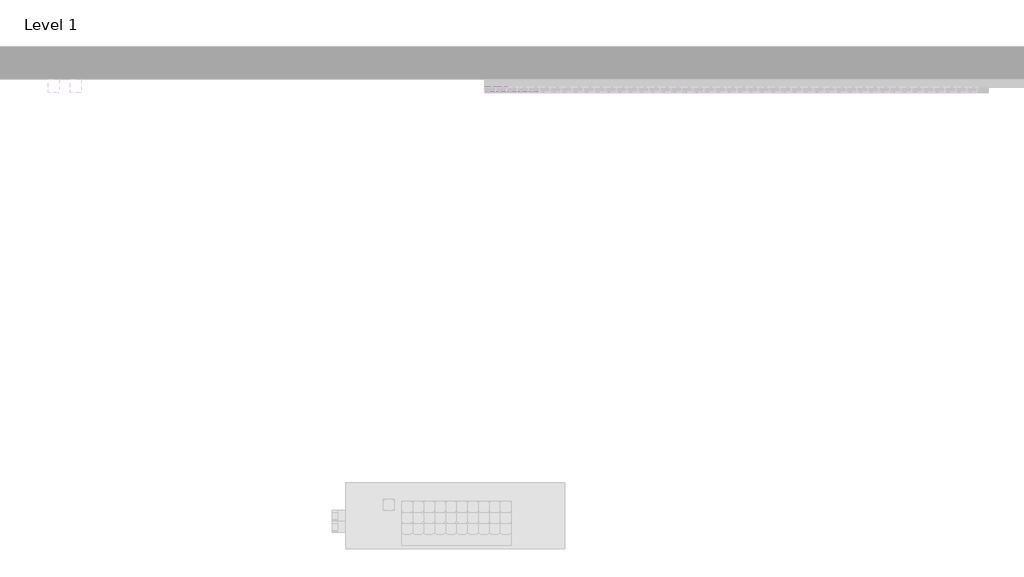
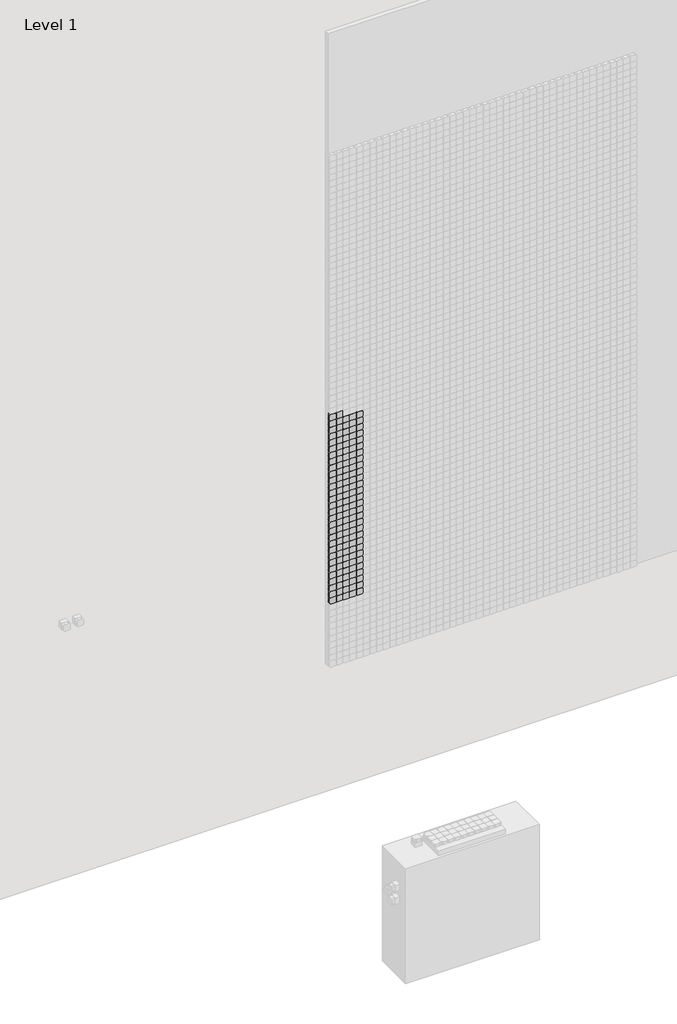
# One storey, part 6 of 71: 147 proxies.
"""IFC4 building model written with IfcOpenShell, lengths in millimetres."""

from ifc_helpers import new_model, si_unit, origin, place, context, project, spatial, transform, mapped, element, save
from components import generic_models_afde289c

model = new_model("IFC4")

# Units and contexts
model_context = context("Model", 3, world=origin())
ifc_project = project(units=[si_unit("LENGTHUNIT", "METRE", prefix="MILLI")], contexts=[model_context])

# Site, building, storey
site = spatial("IfcSite", under=ifc_project)
building = spatial("IfcBuilding", under=site)
storey = spatial("IfcBuildingStorey", under=building, Name="Level 1", Elevation=0.0)

# Proxies
placement = place(None, origin())
generic_models_shape = generic_models_afde289c(model_context)
element("IfcBuildingElementProxy", 1, Name="Pixel_M : Pixel_M", ObjectType="Pixel_M : Pixel_M", at=placement, inside=storey, context=model_context, shape_type="MappedRepresentation", body=[
    mapped(generic_models_shape, transform((4812.4280941, -75.0, 2966.3566215), x_axis=(1.0, 0.0, 0.0), y_axis=(0.0, 0.0, 1.0), z_axis=(0.0, -1.0, 0.0))),
])
element("IfcBuildingElementProxy", 2, Name="Pixel_M : Pixel_M", ObjectType="Pixel_M : Pixel_M", at=placement, inside=storey, context=model_context, shape_type="MappedRepresentation", body=[
    mapped(generic_models_shape, transform((4762.4280941, -75.0, 2966.3566215), x_axis=(1.0, 0.0, 0.0), y_axis=(0.0, 0.0, 1.0), z_axis=(0.0, -1.0, 0.0))),
])
element("IfcBuildingElementProxy", 3, Name="Pixel_M : Pixel_M", ObjectType="Pixel_M : Pixel_M", at=placement, inside=storey, context=model_context, shape_type="MappedRepresentation", body=[
    mapped(generic_models_shape, transform((4962.4280941, -75.0, 2916.3566215), x_axis=(1.0, 0.0, 0.0), y_axis=(0.0, 0.0, 1.0), z_axis=(0.0, -1.0, 0.0))),
])
element("IfcBuildingElementProxy", 4, Name="Pixel_M : Pixel_M", ObjectType="Pixel_M : Pixel_M", at=placement, inside=storey, context=model_context, shape_type="MappedRepresentation", body=[
    mapped(generic_models_shape, transform((4912.4280941, -75.0, 2916.3566215), x_axis=(1.0, 0.0, 0.0), y_axis=(0.0, 0.0, 1.0), z_axis=(0.0, -1.0, 0.0))),
])
element("IfcBuildingElementProxy", 5, Name="Pixel_M : Pixel_M", ObjectType="Pixel_M : Pixel_M", at=placement, inside=storey, context=model_context, shape_type="MappedRepresentation", body=[
    mapped(generic_models_shape, transform((4862.4280941, -75.0, 2916.3566215), x_axis=(1.0, 0.0, 0.0), y_axis=(0.0, 0.0, 1.0), z_axis=(0.0, -1.0, 0.0))),
])
element("IfcBuildingElementProxy", 6, Name="Pixel_M : Pixel_M", ObjectType="Pixel_M : Pixel_M", at=placement, inside=storey, context=model_context, shape_type="MappedRepresentation", body=[
    mapped(generic_models_shape, transform((4812.4280941, -75.0, 2916.3566215), x_axis=(1.0, 0.0, 0.0), y_axis=(0.0, 0.0, 1.0), z_axis=(0.0, -1.0, 0.0))),
])
element("IfcBuildingElementProxy", 7, Name="Pixel_M : Pixel_M", ObjectType="Pixel_M : Pixel_M", at=placement, inside=storey, context=model_context, shape_type="MappedRepresentation", body=[
    mapped(generic_models_shape, transform((4762.4280941, -75.0, 2916.3566215), x_axis=(1.0, 0.0, 0.0), y_axis=(0.0, 0.0, 1.0), z_axis=(0.0, -1.0, 0.0))),
])
element("IfcBuildingElementProxy", 8, Name="Pixel_M : Pixel_M", ObjectType="Pixel_M : Pixel_M", at=placement, inside=storey, context=model_context, shape_type="MappedRepresentation", body=[
    mapped(generic_models_shape, transform((4962.4280941, -75.0, 2866.3566215), x_axis=(1.0, 0.0, 0.0), y_axis=(0.0, 0.0, 1.0), z_axis=(0.0, -1.0, 0.0))),
])
element("IfcBuildingElementProxy", 9, Name="Pixel_M : Pixel_M", ObjectType="Pixel_M : Pixel_M", at=placement, inside=storey, context=model_context, shape_type="MappedRepresentation", body=[
    mapped(generic_models_shape, transform((4912.4280941, -75.0, 2866.3566215), x_axis=(1.0, 0.0, 0.0), y_axis=(0.0, 0.0, 1.0), z_axis=(0.0, -1.0, 0.0))),
])
element("IfcBuildingElementProxy", 10, Name="Pixel_M : Pixel_M", ObjectType="Pixel_M : Pixel_M", at=placement, inside=storey, context=model_context, shape_type="MappedRepresentation", body=[
    mapped(generic_models_shape, transform((4862.4280941, -75.0, 2866.3566215), x_axis=(1.0, 0.0, 0.0), y_axis=(0.0, 0.0, 1.0), z_axis=(0.0, -1.0, 0.0))),
])
element("IfcBuildingElementProxy", 11, Name="Pixel_M : Pixel_M", ObjectType="Pixel_M : Pixel_M", at=placement, inside=storey, context=model_context, shape_type="MappedRepresentation", body=[
    mapped(generic_models_shape, transform((4812.4280941, -75.0, 2866.3566215), x_axis=(1.0, 0.0, 0.0), y_axis=(0.0, 0.0, 1.0), z_axis=(0.0, -1.0, 0.0))),
])
element("IfcBuildingElementProxy", 12, Name="Pixel_M : Pixel_M", ObjectType="Pixel_M : Pixel_M", at=placement, inside=storey, context=model_context, shape_type="MappedRepresentation", body=[
    mapped(generic_models_shape, transform((4762.4280941, -75.0, 2866.3566215), x_axis=(1.0, 0.0, 0.0), y_axis=(0.0, 0.0, 1.0), z_axis=(0.0, -1.0, 0.0))),
])
element("IfcBuildingElementProxy", 13, Name="Pixel_M : Pixel_M", ObjectType="Pixel_M : Pixel_M", at=placement, inside=storey, context=model_context, shape_type="MappedRepresentation", body=[
    mapped(generic_models_shape, transform((4962.4280941, -75.0, 2816.3566215), x_axis=(1.0, 0.0, 0.0), y_axis=(0.0, 0.0, 1.0), z_axis=(0.0, -1.0, 0.0))),
])
element("IfcBuildingElementProxy", 14, Name="Pixel_M : Pixel_M", ObjectType="Pixel_M : Pixel_M", at=placement, inside=storey, context=model_context, shape_type="MappedRepresentation", body=[
    mapped(generic_models_shape, transform((4912.4280941, -75.0, 2816.3566215), x_axis=(1.0, 0.0, 0.0), y_axis=(0.0, 0.0, 1.0), z_axis=(0.0, -1.0, 0.0))),
])
element("IfcBuildingElementProxy", 15, Name="Pixel_M : Pixel_M", ObjectType="Pixel_M : Pixel_M", at=placement, inside=storey, context=model_context, shape_type="MappedRepresentation", body=[
    mapped(generic_models_shape, transform((4862.4280941, -75.0, 2816.3566215), x_axis=(1.0, 0.0, 0.0), y_axis=(0.0, 0.0, 1.0), z_axis=(0.0, -1.0, 0.0))),
])
element("IfcBuildingElementProxy", 16, Name="Pixel_M : Pixel_M", ObjectType="Pixel_M : Pixel_M", at=placement, inside=storey, context=model_context, shape_type="MappedRepresentation", body=[
    mapped(generic_models_shape, transform((4812.4280941, -75.0, 2816.3566215), x_axis=(1.0, 0.0, 0.0), y_axis=(0.0, 0.0, 1.0), z_axis=(0.0, -1.0, 0.0))),
])
element("IfcBuildingElementProxy", 17, Name="Pixel_M : Pixel_M", ObjectType="Pixel_M : Pixel_M", at=placement, inside=storey, context=model_context, shape_type="MappedRepresentation", body=[
    mapped(generic_models_shape, transform((4762.4280941, -75.0, 2816.3566215), x_axis=(1.0, 0.0, 0.0), y_axis=(0.0, 0.0, 1.0), z_axis=(0.0, -1.0, 0.0))),
])
element("IfcBuildingElementProxy", 18, Name="Pixel_M : Pixel_M", ObjectType="Pixel_M : Pixel_M", at=placement, inside=storey, context=model_context, shape_type="MappedRepresentation", body=[
    mapped(generic_models_shape, transform((4962.4280941, -75.0, 2766.3566215), x_axis=(1.0, 0.0, 0.0), y_axis=(0.0, 0.0, 1.0), z_axis=(0.0, -1.0, 0.0))),
])
element("IfcBuildingElementProxy", 19, Name="Pixel_M : Pixel_M", ObjectType="Pixel_M : Pixel_M", at=placement, inside=storey, context=model_context, shape_type="MappedRepresentation", body=[
    mapped(generic_models_shape, transform((4912.4280941, -75.0, 2766.3566215), x_axis=(1.0, 0.0, 0.0), y_axis=(0.0, 0.0, 1.0), z_axis=(0.0, -1.0, 0.0))),
])
element("IfcBuildingElementProxy", 20, Name="Pixel_M : Pixel_M", ObjectType="Pixel_M : Pixel_M", at=placement, inside=storey, context=model_context, shape_type="MappedRepresentation", body=[
    mapped(generic_models_shape, transform((4862.4280941, -75.0, 2766.3566215), x_axis=(1.0, 0.0, 0.0), y_axis=(0.0, 0.0, 1.0), z_axis=(0.0, -1.0, 0.0))),
])
element("IfcBuildingElementProxy", 21, Name="Pixel_M : Pixel_M", ObjectType="Pixel_M : Pixel_M", at=placement, inside=storey, context=model_context, shape_type="MappedRepresentation", body=[
    mapped(generic_models_shape, transform((4812.4280941, -75.0, 2766.3566215), x_axis=(1.0, 0.0, 0.0), y_axis=(0.0, 0.0, 1.0), z_axis=(0.0, -1.0, 0.0))),
])
element("IfcBuildingElementProxy", 22, Name="Pixel_M : Pixel_M", ObjectType="Pixel_M : Pixel_M", at=placement, inside=storey, context=model_context, shape_type="MappedRepresentation", body=[
    mapped(generic_models_shape, transform((4762.4280941, -75.0, 2766.3566215), x_axis=(1.0, 0.0, 0.0), y_axis=(0.0, 0.0, 1.0), z_axis=(0.0, -1.0, 0.0))),
])
element("IfcBuildingElementProxy", 23, Name="Pixel_M : Pixel_M", ObjectType="Pixel_M : Pixel_M", at=placement, inside=storey, context=model_context, shape_type="MappedRepresentation", body=[
    mapped(generic_models_shape, transform((4962.4280941, -75.0, 2716.3566215), x_axis=(1.0, 0.0, 0.0), y_axis=(0.0, 0.0, 1.0), z_axis=(0.0, -1.0, 0.0))),
])
element("IfcBuildingElementProxy", 24, Name="Pixel_M : Pixel_M", ObjectType="Pixel_M : Pixel_M", at=placement, inside=storey, context=model_context, shape_type="MappedRepresentation", body=[
    mapped(generic_models_shape, transform((4912.4280941, -75.0, 2716.3566215), x_axis=(1.0, 0.0, 0.0), y_axis=(0.0, 0.0, 1.0), z_axis=(0.0, -1.0, 0.0))),
])
element("IfcBuildingElementProxy", 25, Name="Pixel_M : Pixel_M", ObjectType="Pixel_M : Pixel_M", at=placement, inside=storey, context=model_context, shape_type="MappedRepresentation", body=[
    mapped(generic_models_shape, transform((4862.4280941, -75.0, 2716.3566215), x_axis=(1.0, 0.0, 0.0), y_axis=(0.0, 0.0, 1.0), z_axis=(0.0, -1.0, 0.0))),
])
element("IfcBuildingElementProxy", 26, Name="Pixel_M : Pixel_M", ObjectType="Pixel_M : Pixel_M", at=placement, inside=storey, context=model_context, shape_type="MappedRepresentation", body=[
    mapped(generic_models_shape, transform((4812.4280941, -75.0, 2716.3566215), x_axis=(1.0, 0.0, 0.0), y_axis=(0.0, 0.0, 1.0), z_axis=(0.0, -1.0, 0.0))),
])
element("IfcBuildingElementProxy", 27, Name="Pixel_M : Pixel_M", ObjectType="Pixel_M : Pixel_M", at=placement, inside=storey, context=model_context, shape_type="MappedRepresentation", body=[
    mapped(generic_models_shape, transform((4762.4280941, -75.0, 2716.3566215), x_axis=(1.0, 0.0, 0.0), y_axis=(0.0, 0.0, 1.0), z_axis=(0.0, -1.0, 0.0))),
])
element("IfcBuildingElementProxy", 28, Name="Pixel_M : Pixel_M", ObjectType="Pixel_M : Pixel_M", at=placement, inside=storey, context=model_context, shape_type="MappedRepresentation", body=[
    mapped(generic_models_shape, transform((4962.4280941, -75.0, 2666.3566215), x_axis=(1.0, 0.0, 0.0), y_axis=(0.0, 0.0, 1.0), z_axis=(0.0, -1.0, 0.0))),
])
element("IfcBuildingElementProxy", 29, Name="Pixel_M : Pixel_M", ObjectType="Pixel_M : Pixel_M", at=placement, inside=storey, context=model_context, shape_type="MappedRepresentation", body=[
    mapped(generic_models_shape, transform((4912.4280941, -75.0, 2666.3566215), x_axis=(1.0, 0.0, 0.0), y_axis=(0.0, 0.0, 1.0), z_axis=(0.0, -1.0, 0.0))),
])
element("IfcBuildingElementProxy", 30, Name="Pixel_M : Pixel_M", ObjectType="Pixel_M : Pixel_M", at=placement, inside=storey, context=model_context, shape_type="MappedRepresentation", body=[
    mapped(generic_models_shape, transform((4862.4280941, -75.0, 2666.3566215), x_axis=(1.0, 0.0, 0.0), y_axis=(0.0, 0.0, 1.0), z_axis=(0.0, -1.0, 0.0))),
])
element("IfcBuildingElementProxy", 31, Name="Pixel_M : Pixel_M", ObjectType="Pixel_M : Pixel_M", at=placement, inside=storey, context=model_context, shape_type="MappedRepresentation", body=[
    mapped(generic_models_shape, transform((4812.4280941, -75.0, 2666.3566215), x_axis=(1.0, 0.0, 0.0), y_axis=(0.0, 0.0, 1.0), z_axis=(0.0, -1.0, 0.0))),
])
element("IfcBuildingElementProxy", 32, Name="Pixel_M : Pixel_M", ObjectType="Pixel_M : Pixel_M", at=placement, inside=storey, context=model_context, shape_type="MappedRepresentation", body=[
    mapped(generic_models_shape, transform((4762.4280941, -75.0, 2666.3566215), x_axis=(1.0, 0.0, 0.0), y_axis=(0.0, 0.0, 1.0), z_axis=(0.0, -1.0, 0.0))),
])
element("IfcBuildingElementProxy", 33, Name="Pixel_M : Pixel_M", ObjectType="Pixel_M : Pixel_M", at=placement, inside=storey, context=model_context, shape_type="MappedRepresentation", body=[
    mapped(generic_models_shape, transform((4962.4280941, -75.0, 2616.3566215), x_axis=(1.0, 0.0, 0.0), y_axis=(0.0, 0.0, 1.0), z_axis=(0.0, -1.0, 0.0))),
])
element("IfcBuildingElementProxy", 34, Name="Pixel_M : Pixel_M", ObjectType="Pixel_M : Pixel_M", at=placement, inside=storey, context=model_context, shape_type="MappedRepresentation", body=[
    mapped(generic_models_shape, transform((4912.4280941, -75.0, 2616.3566215), x_axis=(1.0, 0.0, 0.0), y_axis=(0.0, 0.0, 1.0), z_axis=(0.0, -1.0, 0.0))),
])
element("IfcBuildingElementProxy", 35, Name="Pixel_M : Pixel_M", ObjectType="Pixel_M : Pixel_M", at=placement, inside=storey, context=model_context, shape_type="MappedRepresentation", body=[
    mapped(generic_models_shape, transform((4862.4280941, -75.0, 2616.3566215), x_axis=(1.0, 0.0, 0.0), y_axis=(0.0, 0.0, 1.0), z_axis=(0.0, -1.0, 0.0))),
])
element("IfcBuildingElementProxy", 36, Name="Pixel_M : Pixel_M", ObjectType="Pixel_M : Pixel_M", at=placement, inside=storey, context=model_context, shape_type="MappedRepresentation", body=[
    mapped(generic_models_shape, transform((4812.4280941, -75.0, 2616.3566215), x_axis=(1.0, 0.0, 0.0), y_axis=(0.0, 0.0, 1.0), z_axis=(0.0, -1.0, 0.0))),
])
element("IfcBuildingElementProxy", 37, Name="Pixel_M : Pixel_M", ObjectType="Pixel_M : Pixel_M", at=placement, inside=storey, context=model_context, shape_type="MappedRepresentation", body=[
    mapped(generic_models_shape, transform((4762.4280941, -75.0, 2616.3566215), x_axis=(1.0, 0.0, 0.0), y_axis=(0.0, 0.0, 1.0), z_axis=(0.0, -1.0, 0.0))),
])
element("IfcBuildingElementProxy", 38, Name="Pixel_M : Pixel_M", ObjectType="Pixel_M : Pixel_M", at=placement, inside=storey, context=model_context, shape_type="MappedRepresentation", body=[
    mapped(generic_models_shape, transform((4962.4280941, -75.0, 2566.3566215), x_axis=(1.0, 0.0, 0.0), y_axis=(0.0, 0.0, 1.0), z_axis=(0.0, -1.0, 0.0))),
])
element("IfcBuildingElementProxy", 39, Name="Pixel_M : Pixel_M", ObjectType="Pixel_M : Pixel_M", at=placement, inside=storey, context=model_context, shape_type="MappedRepresentation", body=[
    mapped(generic_models_shape, transform((4912.4280941, -75.0, 2566.3566215), x_axis=(1.0, 0.0, 0.0), y_axis=(0.0, 0.0, 1.0), z_axis=(0.0, -1.0, 0.0))),
])
element("IfcBuildingElementProxy", 40, Name="Pixel_M : Pixel_M", ObjectType="Pixel_M : Pixel_M", at=placement, inside=storey, context=model_context, shape_type="MappedRepresentation", body=[
    mapped(generic_models_shape, transform((4862.4280941, -75.0, 2566.3566215), x_axis=(1.0, 0.0, 0.0), y_axis=(0.0, 0.0, 1.0), z_axis=(0.0, -1.0, 0.0))),
])
element("IfcBuildingElementProxy", 41, Name="Pixel_M : Pixel_M", ObjectType="Pixel_M : Pixel_M", at=placement, inside=storey, context=model_context, shape_type="MappedRepresentation", body=[
    mapped(generic_models_shape, transform((4812.4280941, -75.0, 2566.3566215), x_axis=(1.0, 0.0, 0.0), y_axis=(0.0, 0.0, 1.0), z_axis=(0.0, -1.0, 0.0))),
])
element("IfcBuildingElementProxy", 42, Name="Pixel_M : Pixel_M", ObjectType="Pixel_M : Pixel_M", at=placement, inside=storey, context=model_context, shape_type="MappedRepresentation", body=[
    mapped(generic_models_shape, transform((4762.4280941, -75.0, 2566.3566215), x_axis=(1.0, 0.0, 0.0), y_axis=(0.0, 0.0, 1.0), z_axis=(0.0, -1.0, 0.0))),
])
element("IfcBuildingElementProxy", 43, Name="Pixel_M : Pixel_M", ObjectType="Pixel_M : Pixel_M", at=placement, inside=storey, context=model_context, shape_type="MappedRepresentation", body=[
    mapped(generic_models_shape, transform((4962.4280941, -75.0, 2516.3566215), x_axis=(1.0, 0.0, 0.0), y_axis=(0.0, 0.0, 1.0), z_axis=(0.0, -1.0, 0.0))),
])
element("IfcBuildingElementProxy", 44, Name="Pixel_M : Pixel_M", ObjectType="Pixel_M : Pixel_M", at=placement, inside=storey, context=model_context, shape_type="MappedRepresentation", body=[
    mapped(generic_models_shape, transform((4912.4280941, -75.0, 2516.3566215), x_axis=(1.0, 0.0, 0.0), y_axis=(0.0, 0.0, 1.0), z_axis=(0.0, -1.0, 0.0))),
])
element("IfcBuildingElementProxy", 45, Name="Pixel_M : Pixel_M", ObjectType="Pixel_M : Pixel_M", at=placement, inside=storey, context=model_context, shape_type="MappedRepresentation", body=[
    mapped(generic_models_shape, transform((4862.4280941, -75.0, 2516.3566215), x_axis=(1.0, 0.0, 0.0), y_axis=(0.0, 0.0, 1.0), z_axis=(0.0, -1.0, 0.0))),
])
element("IfcBuildingElementProxy", 46, Name="Pixel_M : Pixel_M", ObjectType="Pixel_M : Pixel_M", at=placement, inside=storey, context=model_context, shape_type="MappedRepresentation", body=[
    mapped(generic_models_shape, transform((4812.4280941, -75.0, 2516.3566215), x_axis=(1.0, 0.0, 0.0), y_axis=(0.0, 0.0, 1.0), z_axis=(0.0, -1.0, 0.0))),
])
element("IfcBuildingElementProxy", 47, Name="Pixel_M : Pixel_M", ObjectType="Pixel_M : Pixel_M", at=placement, inside=storey, context=model_context, shape_type="MappedRepresentation", body=[
    mapped(generic_models_shape, transform((4762.4280941, -75.0, 2516.3566215), x_axis=(1.0, 0.0, 0.0), y_axis=(0.0, 0.0, 1.0), z_axis=(0.0, -1.0, 0.0))),
])
element("IfcBuildingElementProxy", 48, Name="Pixel_M : Pixel_M", ObjectType="Pixel_M : Pixel_M", at=placement, inside=storey, context=model_context, shape_type="MappedRepresentation", body=[
    mapped(generic_models_shape, transform((4962.4280941, -75.0, 2466.3566215), x_axis=(1.0, 0.0, 0.0), y_axis=(0.0, 0.0, 1.0), z_axis=(0.0, -1.0, 0.0))),
])
element("IfcBuildingElementProxy", 49, Name="Pixel_M : Pixel_M", ObjectType="Pixel_M : Pixel_M", at=placement, inside=storey, context=model_context, shape_type="MappedRepresentation", body=[
    mapped(generic_models_shape, transform((4912.4280941, -75.0, 2466.3566215), x_axis=(1.0, 0.0, 0.0), y_axis=(0.0, 0.0, 1.0), z_axis=(0.0, -1.0, 0.0))),
])
element("IfcBuildingElementProxy", 50, Name="Pixel_M : Pixel_M", ObjectType="Pixel_M : Pixel_M", at=placement, inside=storey, context=model_context, shape_type="MappedRepresentation", body=[
    mapped(generic_models_shape, transform((4862.4280941, -75.0, 2466.3566215), x_axis=(1.0, 0.0, 0.0), y_axis=(0.0, 0.0, 1.0), z_axis=(0.0, -1.0, 0.0))),
])
element("IfcBuildingElementProxy", 51, Name="Pixel_M : Pixel_M", ObjectType="Pixel_M : Pixel_M", at=placement, inside=storey, context=model_context, shape_type="MappedRepresentation", body=[
    mapped(generic_models_shape, transform((4812.4280941, -75.0, 2466.3566215), x_axis=(1.0, 0.0, 0.0), y_axis=(0.0, 0.0, 1.0), z_axis=(0.0, -1.0, 0.0))),
])
element("IfcBuildingElementProxy", 52, Name="Pixel_M : Pixel_M", ObjectType="Pixel_M : Pixel_M", at=placement, inside=storey, context=model_context, shape_type="MappedRepresentation", body=[
    mapped(generic_models_shape, transform((4762.4280941, -75.0, 2466.3566215), x_axis=(1.0, 0.0, 0.0), y_axis=(0.0, 0.0, 1.0), z_axis=(0.0, -1.0, 0.0))),
])
element("IfcBuildingElementProxy", 53, Name="Pixel_M : Pixel_M", ObjectType="Pixel_M : Pixel_M", at=placement, inside=storey, context=model_context, shape_type="MappedRepresentation", body=[
    mapped(generic_models_shape, transform((4962.4280941, -75.0, 2416.3566215), x_axis=(1.0, 0.0, 0.0), y_axis=(0.0, 0.0, 1.0), z_axis=(0.0, -1.0, 0.0))),
])
element("IfcBuildingElementProxy", 54, Name="Pixel_M : Pixel_M", ObjectType="Pixel_M : Pixel_M", at=placement, inside=storey, context=model_context, shape_type="MappedRepresentation", body=[
    mapped(generic_models_shape, transform((4912.4280941, -75.0, 2416.3566215), x_axis=(1.0, 0.0, 0.0), y_axis=(0.0, 0.0, 1.0), z_axis=(0.0, -1.0, 0.0))),
])
element("IfcBuildingElementProxy", 55, Name="Pixel_M : Pixel_M", ObjectType="Pixel_M : Pixel_M", at=placement, inside=storey, context=model_context, shape_type="MappedRepresentation", body=[
    mapped(generic_models_shape, transform((4862.4280941, -75.0, 2416.3566215), x_axis=(1.0, 0.0, 0.0), y_axis=(0.0, 0.0, 1.0), z_axis=(0.0, -1.0, 0.0))),
])
element("IfcBuildingElementProxy", 56, Name="Pixel_M : Pixel_M", ObjectType="Pixel_M : Pixel_M", at=placement, inside=storey, context=model_context, shape_type="MappedRepresentation", body=[
    mapped(generic_models_shape, transform((4812.4280941, -75.0, 2416.3566215), x_axis=(1.0, 0.0, 0.0), y_axis=(0.0, 0.0, 1.0), z_axis=(0.0, -1.0, 0.0))),
])
element("IfcBuildingElementProxy", 57, Name="Pixel_M : Pixel_M", ObjectType="Pixel_M : Pixel_M", at=placement, inside=storey, context=model_context, shape_type="MappedRepresentation", body=[
    mapped(generic_models_shape, transform((4762.4280941, -75.0, 2416.3566215), x_axis=(1.0, 0.0, 0.0), y_axis=(0.0, 0.0, 1.0), z_axis=(0.0, -1.0, 0.0))),
])
element("IfcBuildingElementProxy", 58, Name="Pixel_M : Pixel_M", ObjectType="Pixel_M : Pixel_M", at=placement, inside=storey, context=model_context, shape_type="MappedRepresentation", body=[
    mapped(generic_models_shape, transform((4962.4280941, -75.0, 2366.3566215), x_axis=(1.0, 0.0, 0.0), y_axis=(0.0, 0.0, 1.0), z_axis=(0.0, -1.0, 0.0))),
])
element("IfcBuildingElementProxy", 59, Name="Pixel_M : Pixel_M", ObjectType="Pixel_M : Pixel_M", at=placement, inside=storey, context=model_context, shape_type="MappedRepresentation", body=[
    mapped(generic_models_shape, transform((4912.4280941, -75.0, 2366.3566215), x_axis=(1.0, 0.0, 0.0), y_axis=(0.0, 0.0, 1.0), z_axis=(0.0, -1.0, 0.0))),
])
element("IfcBuildingElementProxy", 60, Name="Pixel_M : Pixel_M", ObjectType="Pixel_M : Pixel_M", at=placement, inside=storey, context=model_context, shape_type="MappedRepresentation", body=[
    mapped(generic_models_shape, transform((4862.4280941, -75.0, 2366.3566215), x_axis=(1.0, 0.0, 0.0), y_axis=(0.0, 0.0, 1.0), z_axis=(0.0, -1.0, 0.0))),
])
element("IfcBuildingElementProxy", 61, Name="Pixel_M : Pixel_M", ObjectType="Pixel_M : Pixel_M", at=placement, inside=storey, context=model_context, shape_type="MappedRepresentation", body=[
    mapped(generic_models_shape, transform((4812.4280941, -75.0, 2366.3566215), x_axis=(1.0, 0.0, 0.0), y_axis=(0.0, 0.0, 1.0), z_axis=(0.0, -1.0, 0.0))),
])
element("IfcBuildingElementProxy", 62, Name="Pixel_M : Pixel_M", ObjectType="Pixel_M : Pixel_M", at=placement, inside=storey, context=model_context, shape_type="MappedRepresentation", body=[
    mapped(generic_models_shape, transform((4762.4280941, -75.0, 2366.3566215), x_axis=(1.0, 0.0, 0.0), y_axis=(0.0, 0.0, 1.0), z_axis=(0.0, -1.0, 0.0))),
])
element("IfcBuildingElementProxy", 63, Name="Pixel_M : Pixel_M", ObjectType="Pixel_M : Pixel_M", at=placement, inside=storey, context=model_context, shape_type="MappedRepresentation", body=[
    mapped(generic_models_shape, transform((4962.4280941, -75.0, 2316.3566215), x_axis=(1.0, 0.0, 0.0), y_axis=(0.0, 0.0, 1.0), z_axis=(0.0, -1.0, 0.0))),
])
element("IfcBuildingElementProxy", 64, Name="Pixel_M : Pixel_M", ObjectType="Pixel_M : Pixel_M", at=placement, inside=storey, context=model_context, shape_type="MappedRepresentation", body=[
    mapped(generic_models_shape, transform((4912.4280941, -75.0, 2316.3566215), x_axis=(1.0, 0.0, 0.0), y_axis=(0.0, 0.0, 1.0), z_axis=(0.0, -1.0, 0.0))),
])
element("IfcBuildingElementProxy", 65, Name="Pixel_M : Pixel_M", ObjectType="Pixel_M : Pixel_M", at=placement, inside=storey, context=model_context, shape_type="MappedRepresentation", body=[
    mapped(generic_models_shape, transform((4862.4280941, -75.0, 2316.3566215), x_axis=(1.0, 0.0, 0.0), y_axis=(0.0, 0.0, 1.0), z_axis=(0.0, -1.0, 0.0))),
])
element("IfcBuildingElementProxy", 66, Name="Pixel_M : Pixel_M", ObjectType="Pixel_M : Pixel_M", at=placement, inside=storey, context=model_context, shape_type="MappedRepresentation", body=[
    mapped(generic_models_shape, transform((4812.4280941, -75.0, 2316.3566215), x_axis=(1.0, 0.0, 0.0), y_axis=(0.0, 0.0, 1.0), z_axis=(0.0, -1.0, 0.0))),
])
element("IfcBuildingElementProxy", 67, Name="Pixel_M : Pixel_M", ObjectType="Pixel_M : Pixel_M", at=placement, inside=storey, context=model_context, shape_type="MappedRepresentation", body=[
    mapped(generic_models_shape, transform((4762.4280941, -75.0, 2316.3566215), x_axis=(1.0, 0.0, 0.0), y_axis=(0.0, 0.0, 1.0), z_axis=(0.0, -1.0, 0.0))),
])
element("IfcBuildingElementProxy", 68, Name="Pixel_M : Pixel_M", ObjectType="Pixel_M : Pixel_M", at=placement, inside=storey, context=model_context, shape_type="MappedRepresentation", body=[
    mapped(generic_models_shape, transform((4962.4280941, -75.0, 2266.3566215), x_axis=(1.0, 0.0, 0.0), y_axis=(0.0, 0.0, 1.0), z_axis=(0.0, -1.0, 0.0))),
])
element("IfcBuildingElementProxy", 69, Name="Pixel_M : Pixel_M", ObjectType="Pixel_M : Pixel_M", at=placement, inside=storey, context=model_context, shape_type="MappedRepresentation", body=[
    mapped(generic_models_shape, transform((4912.4280941, -75.0, 2266.3566215), x_axis=(1.0, 0.0, 0.0), y_axis=(0.0, 0.0, 1.0), z_axis=(0.0, -1.0, 0.0))),
])
element("IfcBuildingElementProxy", 70, Name="Pixel_M : Pixel_M", ObjectType="Pixel_M : Pixel_M", at=placement, inside=storey, context=model_context, shape_type="MappedRepresentation", body=[
    mapped(generic_models_shape, transform((4862.4280941, -75.0, 2266.3566215), x_axis=(1.0, 0.0, 0.0), y_axis=(0.0, 0.0, 1.0), z_axis=(0.0, -1.0, 0.0))),
])
element("IfcBuildingElementProxy", 71, Name="Pixel_M : Pixel_M", ObjectType="Pixel_M : Pixel_M", at=placement, inside=storey, context=model_context, shape_type="MappedRepresentation", body=[
    mapped(generic_models_shape, transform((4812.4280941, -75.0, 2266.3566215), x_axis=(1.0, 0.0, 0.0), y_axis=(0.0, 0.0, 1.0), z_axis=(0.0, -1.0, 0.0))),
])
element("IfcBuildingElementProxy", 72, Name="Pixel_M : Pixel_M", ObjectType="Pixel_M : Pixel_M", at=placement, inside=storey, context=model_context, shape_type="MappedRepresentation", body=[
    mapped(generic_models_shape, transform((4762.4280941, -75.0, 2266.3566215), x_axis=(1.0, 0.0, 0.0), y_axis=(0.0, 0.0, 1.0), z_axis=(0.0, -1.0, 0.0))),
])
element("IfcBuildingElementProxy", 73, Name="Pixel_M : Pixel_M", ObjectType="Pixel_M : Pixel_M", at=placement, inside=storey, context=model_context, shape_type="MappedRepresentation", body=[
    mapped(generic_models_shape, transform((4962.4280941, -75.0, 2216.3566215), x_axis=(1.0, 0.0, 0.0), y_axis=(0.0, 0.0, 1.0), z_axis=(0.0, -1.0, 0.0))),
])
element("IfcBuildingElementProxy", 74, Name="Pixel_M : Pixel_M", ObjectType="Pixel_M : Pixel_M", at=placement, inside=storey, context=model_context, shape_type="MappedRepresentation", body=[
    mapped(generic_models_shape, transform((4912.4280941, -75.0, 2216.3566215), x_axis=(1.0, 0.0, 0.0), y_axis=(0.0, 0.0, 1.0), z_axis=(0.0, -1.0, 0.0))),
])
element("IfcBuildingElementProxy", 75, Name="Pixel_M : Pixel_M", ObjectType="Pixel_M : Pixel_M", at=placement, inside=storey, context=model_context, shape_type="MappedRepresentation", body=[
    mapped(generic_models_shape, transform((4862.4280941, -75.0, 2216.3566215), x_axis=(1.0, 0.0, 0.0), y_axis=(0.0, 0.0, 1.0), z_axis=(0.0, -1.0, 0.0))),
])
element("IfcBuildingElementProxy", 76, Name="Pixel_M : Pixel_M", ObjectType="Pixel_M : Pixel_M", at=placement, inside=storey, context=model_context, shape_type="MappedRepresentation", body=[
    mapped(generic_models_shape, transform((4812.4280941, -75.0, 2216.3566215), x_axis=(1.0, 0.0, 0.0), y_axis=(0.0, 0.0, 1.0), z_axis=(0.0, -1.0, 0.0))),
])
element("IfcBuildingElementProxy", 77, Name="Pixel_M : Pixel_M", ObjectType="Pixel_M : Pixel_M", at=placement, inside=storey, context=model_context, shape_type="MappedRepresentation", body=[
    mapped(generic_models_shape, transform((4762.4280941, -75.0, 2216.3566215), x_axis=(1.0, 0.0, 0.0), y_axis=(0.0, 0.0, 1.0), z_axis=(0.0, -1.0, 0.0))),
])
element("IfcBuildingElementProxy", 78, Name="Pixel_M : Pixel_M", ObjectType="Pixel_M : Pixel_M", at=placement, inside=storey, context=model_context, shape_type="MappedRepresentation", body=[
    mapped(generic_models_shape, transform((4962.4280941, -75.0, 2166.3566215), x_axis=(1.0, 0.0, 0.0), y_axis=(0.0, 0.0, 1.0), z_axis=(0.0, -1.0, 0.0))),
])
element("IfcBuildingElementProxy", 79, Name="Pixel_M : Pixel_M", ObjectType="Pixel_M : Pixel_M", at=placement, inside=storey, context=model_context, shape_type="MappedRepresentation", body=[
    mapped(generic_models_shape, transform((4912.4280941, -75.0, 2166.3566215), x_axis=(1.0, 0.0, 0.0), y_axis=(0.0, 0.0, 1.0), z_axis=(0.0, -1.0, 0.0))),
])
element("IfcBuildingElementProxy", 80, Name="Pixel_M : Pixel_M", ObjectType="Pixel_M : Pixel_M", at=placement, inside=storey, context=model_context, shape_type="MappedRepresentation", body=[
    mapped(generic_models_shape, transform((4862.4280941, -75.0, 2166.3566215), x_axis=(1.0, 0.0, 0.0), y_axis=(0.0, 0.0, 1.0), z_axis=(0.0, -1.0, 0.0))),
])
element("IfcBuildingElementProxy", 81, Name="Pixel_M : Pixel_M", ObjectType="Pixel_M : Pixel_M", at=placement, inside=storey, context=model_context, shape_type="MappedRepresentation", body=[
    mapped(generic_models_shape, transform((4812.4280941, -75.0, 2166.3566215), x_axis=(1.0, 0.0, 0.0), y_axis=(0.0, 0.0, 1.0), z_axis=(0.0, -1.0, 0.0))),
])
element("IfcBuildingElementProxy", 82, Name="Pixel_M : Pixel_M", ObjectType="Pixel_M : Pixel_M", at=placement, inside=storey, context=model_context, shape_type="MappedRepresentation", body=[
    mapped(generic_models_shape, transform((4762.4280941, -75.0, 2166.3566215), x_axis=(1.0, 0.0, 0.0), y_axis=(0.0, 0.0, 1.0), z_axis=(0.0, -1.0, 0.0))),
])
element("IfcBuildingElementProxy", 83, Name="Pixel_M : Pixel_M", ObjectType="Pixel_M : Pixel_M", at=placement, inside=storey, context=model_context, shape_type="MappedRepresentation", body=[
    mapped(generic_models_shape, transform((4962.4280941, -75.0, 2116.3566215), x_axis=(1.0, 0.0, 0.0), y_axis=(0.0, 0.0, 1.0), z_axis=(0.0, -1.0, 0.0))),
])
element("IfcBuildingElementProxy", 84, Name="Pixel_M : Pixel_M", ObjectType="Pixel_M : Pixel_M", at=placement, inside=storey, context=model_context, shape_type="MappedRepresentation", body=[
    mapped(generic_models_shape, transform((4912.4280941, -75.0, 2116.3566215), x_axis=(1.0, 0.0, 0.0), y_axis=(0.0, 0.0, 1.0), z_axis=(0.0, -1.0, 0.0))),
])
element("IfcBuildingElementProxy", 85, Name="Pixel_M : Pixel_M", ObjectType="Pixel_M : Pixel_M", at=placement, inside=storey, context=model_context, shape_type="MappedRepresentation", body=[
    mapped(generic_models_shape, transform((4862.4280941, -75.0, 2116.3566215), x_axis=(1.0, 0.0, 0.0), y_axis=(0.0, 0.0, 1.0), z_axis=(0.0, -1.0, 0.0))),
])
element("IfcBuildingElementProxy", 86, Name="Pixel_M : Pixel_M", ObjectType="Pixel_M : Pixel_M", at=placement, inside=storey, context=model_context, shape_type="MappedRepresentation", body=[
    mapped(generic_models_shape, transform((4812.4280941, -75.0, 2116.3566215), x_axis=(1.0, 0.0, 0.0), y_axis=(0.0, 0.0, 1.0), z_axis=(0.0, -1.0, 0.0))),
])
element("IfcBuildingElementProxy", 87, Name="Pixel_M : Pixel_M", ObjectType="Pixel_M : Pixel_M", at=placement, inside=storey, context=model_context, shape_type="MappedRepresentation", body=[
    mapped(generic_models_shape, transform((4762.4280941, -75.0, 2116.3566215), x_axis=(1.0, 0.0, 0.0), y_axis=(0.0, 0.0, 1.0), z_axis=(0.0, -1.0, 0.0))),
])
element("IfcBuildingElementProxy", 88, Name="Pixel_M : Pixel_M", ObjectType="Pixel_M : Pixel_M", at=placement, inside=storey, context=model_context, shape_type="MappedRepresentation", body=[
    mapped(generic_models_shape, transform((4962.4280941, -75.0, 2066.3566215), x_axis=(1.0, 0.0, 0.0), y_axis=(0.0, 0.0, 1.0), z_axis=(0.0, -1.0, 0.0))),
])
element("IfcBuildingElementProxy", 89, Name="Pixel_M : Pixel_M", ObjectType="Pixel_M : Pixel_M", at=placement, inside=storey, context=model_context, shape_type="MappedRepresentation", body=[
    mapped(generic_models_shape, transform((4912.4280941, -75.0, 2066.3566215), x_axis=(1.0, 0.0, 0.0), y_axis=(0.0, 0.0, 1.0), z_axis=(0.0, -1.0, 0.0))),
])
element("IfcBuildingElementProxy", 90, Name="Pixel_M : Pixel_M", ObjectType="Pixel_M : Pixel_M", at=placement, inside=storey, context=model_context, shape_type="MappedRepresentation", body=[
    mapped(generic_models_shape, transform((4862.4280941, -75.0, 2066.3566215), x_axis=(1.0, 0.0, 0.0), y_axis=(0.0, 0.0, 1.0), z_axis=(0.0, -1.0, 0.0))),
])
element("IfcBuildingElementProxy", 91, Name="Pixel_M : Pixel_M", ObjectType="Pixel_M : Pixel_M", at=placement, inside=storey, context=model_context, shape_type="MappedRepresentation", body=[
    mapped(generic_models_shape, transform((4812.4280941, -75.0, 2066.3566215), x_axis=(1.0, 0.0, 0.0), y_axis=(0.0, 0.0, 1.0), z_axis=(0.0, -1.0, 0.0))),
])
element("IfcBuildingElementProxy", 92, Name="Pixel_M : Pixel_M", ObjectType="Pixel_M : Pixel_M", at=placement, inside=storey, context=model_context, shape_type="MappedRepresentation", body=[
    mapped(generic_models_shape, transform((4762.4280941, -75.0, 2066.3566215), x_axis=(1.0, 0.0, 0.0), y_axis=(0.0, 0.0, 1.0), z_axis=(0.0, -1.0, 0.0))),
])
element("IfcBuildingElementProxy", 93, Name="Pixel_M : Pixel_M", ObjectType="Pixel_M : Pixel_M", at=placement, inside=storey, context=model_context, shape_type="MappedRepresentation", body=[
    mapped(generic_models_shape, transform((4962.4280941, -75.0, 2016.3566215), x_axis=(1.0, 0.0, 0.0), y_axis=(0.0, 0.0, 1.0), z_axis=(0.0, -1.0, 0.0))),
])
element("IfcBuildingElementProxy", 94, Name="Pixel_M : Pixel_M", ObjectType="Pixel_M : Pixel_M", at=placement, inside=storey, context=model_context, shape_type="MappedRepresentation", body=[
    mapped(generic_models_shape, transform((4912.4280941, -75.0, 2016.3566215), x_axis=(1.0, 0.0, 0.0), y_axis=(0.0, 0.0, 1.0), z_axis=(0.0, -1.0, 0.0))),
])
element("IfcBuildingElementProxy", 95, Name="Pixel_M : Pixel_M", ObjectType="Pixel_M : Pixel_M", at=placement, inside=storey, context=model_context, shape_type="MappedRepresentation", body=[
    mapped(generic_models_shape, transform((4862.4280941, -75.0, 2016.3566215), x_axis=(1.0, 0.0, 0.0), y_axis=(0.0, 0.0, 1.0), z_axis=(0.0, -1.0, 0.0))),
])
element("IfcBuildingElementProxy", 96, Name="Pixel_M : Pixel_M", ObjectType="Pixel_M : Pixel_M", at=placement, inside=storey, context=model_context, shape_type="MappedRepresentation", body=[
    mapped(generic_models_shape, transform((4812.4280941, -75.0, 2016.3566215), x_axis=(1.0, 0.0, 0.0), y_axis=(0.0, 0.0, 1.0), z_axis=(0.0, -1.0, 0.0))),
])
element("IfcBuildingElementProxy", 97, Name="Pixel_M : Pixel_M", ObjectType="Pixel_M : Pixel_M", at=placement, inside=storey, context=model_context, shape_type="MappedRepresentation", body=[
    mapped(generic_models_shape, transform((4762.4280941, -75.0, 2016.3566215), x_axis=(1.0, 0.0, 0.0), y_axis=(0.0, 0.0, 1.0), z_axis=(0.0, -1.0, 0.0))),
])
element("IfcBuildingElementProxy", 98, Name="Pixel_M : Pixel_M", ObjectType="Pixel_M : Pixel_M", at=placement, inside=storey, context=model_context, shape_type="MappedRepresentation", body=[
    mapped(generic_models_shape, transform((4962.4280941, -75.0, 1966.3566215), x_axis=(1.0, 0.0, 0.0), y_axis=(0.0, 0.0, 1.0), z_axis=(0.0, -1.0, 0.0))),
])
element("IfcBuildingElementProxy", 99, Name="Pixel_M : Pixel_M", ObjectType="Pixel_M : Pixel_M", at=placement, inside=storey, context=model_context, shape_type="MappedRepresentation", body=[
    mapped(generic_models_shape, transform((4912.4280941, -75.0, 1966.3566215), x_axis=(1.0, 0.0, 0.0), y_axis=(0.0, 0.0, 1.0), z_axis=(0.0, -1.0, 0.0))),
])
element("IfcBuildingElementProxy", 100, Name="Pixel_M : Pixel_M", ObjectType="Pixel_M : Pixel_M", at=placement, inside=storey, context=model_context, shape_type="MappedRepresentation", body=[
    mapped(generic_models_shape, transform((4862.4280941, -75.0, 1966.3566215), x_axis=(1.0, 0.0, 0.0), y_axis=(0.0, 0.0, 1.0), z_axis=(0.0, -1.0, 0.0))),
])
element("IfcBuildingElementProxy", 101, Name="Pixel_M : Pixel_M", ObjectType="Pixel_M : Pixel_M", at=placement, inside=storey, context=model_context, shape_type="MappedRepresentation", body=[
    mapped(generic_models_shape, transform((4812.4280941, -75.0, 1966.3566215), x_axis=(1.0, 0.0, 0.0), y_axis=(0.0, 0.0, 1.0), z_axis=(0.0, -1.0, 0.0))),
])
element("IfcBuildingElementProxy", 102, Name="Pixel_M : Pixel_M", ObjectType="Pixel_M : Pixel_M", at=placement, inside=storey, context=model_context, shape_type="MappedRepresentation", body=[
    mapped(generic_models_shape, transform((4762.4280941, -75.0, 1966.3566215), x_axis=(1.0, 0.0, 0.0), y_axis=(0.0, 0.0, 1.0), z_axis=(0.0, -1.0, 0.0))),
])
element("IfcBuildingElementProxy", 103, Name="Pixel_M : Pixel_M", ObjectType="Pixel_M : Pixel_M", at=placement, inside=storey, context=model_context, shape_type="MappedRepresentation", body=[
    mapped(generic_models_shape, transform((4962.4280941, -75.0, 1916.3566215), x_axis=(1.0, 0.0, 0.0), y_axis=(0.0, 0.0, 1.0), z_axis=(0.0, -1.0, 0.0))),
])
element("IfcBuildingElementProxy", 104, Name="Pixel_M : Pixel_M", ObjectType="Pixel_M : Pixel_M", at=placement, inside=storey, context=model_context, shape_type="MappedRepresentation", body=[
    mapped(generic_models_shape, transform((4912.4280941, -75.0, 1916.3566215), x_axis=(1.0, 0.0, 0.0), y_axis=(0.0, 0.0, 1.0), z_axis=(0.0, -1.0, 0.0))),
])
element("IfcBuildingElementProxy", 105, Name="Pixel_M : Pixel_M", ObjectType="Pixel_M : Pixel_M", at=placement, inside=storey, context=model_context, shape_type="MappedRepresentation", body=[
    mapped(generic_models_shape, transform((4862.4280941, -75.0, 1916.3566215), x_axis=(1.0, 0.0, 0.0), y_axis=(0.0, 0.0, 1.0), z_axis=(0.0, -1.0, 0.0))),
])
element("IfcBuildingElementProxy", 106, Name="Pixel_M : Pixel_M", ObjectType="Pixel_M : Pixel_M", at=placement, inside=storey, context=model_context, shape_type="MappedRepresentation", body=[
    mapped(generic_models_shape, transform((4812.4280941, -75.0, 1916.3566215), x_axis=(1.0, 0.0, 0.0), y_axis=(0.0, 0.0, 1.0), z_axis=(0.0, -1.0, 0.0))),
])
element("IfcBuildingElementProxy", 107, Name="Pixel_M : Pixel_M", ObjectType="Pixel_M : Pixel_M", at=placement, inside=storey, context=model_context, shape_type="MappedRepresentation", body=[
    mapped(generic_models_shape, transform((4762.4280941, -75.0, 1916.3566215), x_axis=(1.0, 0.0, 0.0), y_axis=(0.0, 0.0, 1.0), z_axis=(0.0, -1.0, 0.0))),
])
element("IfcBuildingElementProxy", 108, Name="Pixel_M : Pixel_M", ObjectType="Pixel_M : Pixel_M", at=placement, inside=storey, context=model_context, shape_type="MappedRepresentation", body=[
    mapped(generic_models_shape, transform((4962.4280941, -75.0, 1866.3566215), x_axis=(1.0, 0.0, 0.0), y_axis=(0.0, 0.0, 1.0), z_axis=(0.0, -1.0, 0.0))),
])
element("IfcBuildingElementProxy", 109, Name="Pixel_M : Pixel_M", ObjectType="Pixel_M : Pixel_M", at=placement, inside=storey, context=model_context, shape_type="MappedRepresentation", body=[
    mapped(generic_models_shape, transform((4912.4280941, -75.0, 1866.3566215), x_axis=(1.0, 0.0, 0.0), y_axis=(0.0, 0.0, 1.0), z_axis=(0.0, -1.0, 0.0))),
])
element("IfcBuildingElementProxy", 110, Name="Pixel_M : Pixel_M", ObjectType="Pixel_M : Pixel_M", at=placement, inside=storey, context=model_context, shape_type="MappedRepresentation", body=[
    mapped(generic_models_shape, transform((4862.4280941, -75.0, 1866.3566215), x_axis=(1.0, 0.0, 0.0), y_axis=(0.0, 0.0, 1.0), z_axis=(0.0, -1.0, 0.0))),
])
element("IfcBuildingElementProxy", 111, Name="Pixel_M : Pixel_M", ObjectType="Pixel_M : Pixel_M", at=placement, inside=storey, context=model_context, shape_type="MappedRepresentation", body=[
    mapped(generic_models_shape, transform((4812.4280941, -75.0, 1866.3566215), x_axis=(1.0, 0.0, 0.0), y_axis=(0.0, 0.0, 1.0), z_axis=(0.0, -1.0, 0.0))),
])
element("IfcBuildingElementProxy", 112, Name="Pixel_M : Pixel_M", ObjectType="Pixel_M : Pixel_M", at=placement, inside=storey, context=model_context, shape_type="MappedRepresentation", body=[
    mapped(generic_models_shape, transform((4762.4280941, -75.0, 1866.3566215), x_axis=(1.0, 0.0, 0.0), y_axis=(0.0, 0.0, 1.0), z_axis=(0.0, -1.0, 0.0))),
])
element("IfcBuildingElementProxy", 113, Name="Pixel_M : Pixel_M", ObjectType="Pixel_M : Pixel_M", at=placement, inside=storey, context=model_context, shape_type="MappedRepresentation", body=[
    mapped(generic_models_shape, transform((4962.4280941, -75.0, 1816.3566215), x_axis=(1.0, 0.0, 0.0), y_axis=(0.0, 0.0, 1.0), z_axis=(0.0, -1.0, 0.0))),
])
element("IfcBuildingElementProxy", 114, Name="Pixel_M : Pixel_M", ObjectType="Pixel_M : Pixel_M", at=placement, inside=storey, context=model_context, shape_type="MappedRepresentation", body=[
    mapped(generic_models_shape, transform((4912.4280941, -75.0, 1816.3566215), x_axis=(1.0, 0.0, 0.0), y_axis=(0.0, 0.0, 1.0), z_axis=(0.0, -1.0, 0.0))),
])
element("IfcBuildingElementProxy", 115, Name="Pixel_M : Pixel_M", ObjectType="Pixel_M : Pixel_M", at=placement, inside=storey, context=model_context, shape_type="MappedRepresentation", body=[
    mapped(generic_models_shape, transform((4862.4280941, -75.0, 1816.3566215), x_axis=(1.0, 0.0, 0.0), y_axis=(0.0, 0.0, 1.0), z_axis=(0.0, -1.0, 0.0))),
])
element("IfcBuildingElementProxy", 116, Name="Pixel_M : Pixel_M", ObjectType="Pixel_M : Pixel_M", at=placement, inside=storey, context=model_context, shape_type="MappedRepresentation", body=[
    mapped(generic_models_shape, transform((4812.4280941, -75.0, 1816.3566215), x_axis=(1.0, 0.0, 0.0), y_axis=(0.0, 0.0, 1.0), z_axis=(0.0, -1.0, 0.0))),
])
element("IfcBuildingElementProxy", 117, Name="Pixel_M : Pixel_M", ObjectType="Pixel_M : Pixel_M", at=placement, inside=storey, context=model_context, shape_type="MappedRepresentation", body=[
    mapped(generic_models_shape, transform((4762.4280941, -75.0, 1816.3566215), x_axis=(1.0, 0.0, 0.0), y_axis=(0.0, 0.0, 1.0), z_axis=(0.0, -1.0, 0.0))),
])
element("IfcBuildingElementProxy", 118, Name="Pixel_M : Pixel_M", ObjectType="Pixel_M : Pixel_M", at=placement, inside=storey, context=model_context, shape_type="MappedRepresentation", body=[
    mapped(generic_models_shape, transform((4962.4280941, -75.0, 1766.3566215), x_axis=(1.0, 0.0, 0.0), y_axis=(0.0, 0.0, 1.0), z_axis=(0.0, -1.0, 0.0))),
])
element("IfcBuildingElementProxy", 119, Name="Pixel_M : Pixel_M", ObjectType="Pixel_M : Pixel_M", at=placement, inside=storey, context=model_context, shape_type="MappedRepresentation", body=[
    mapped(generic_models_shape, transform((4912.4280941, -75.0, 1766.3566215), x_axis=(1.0, 0.0, 0.0), y_axis=(0.0, 0.0, 1.0), z_axis=(0.0, -1.0, 0.0))),
])
element("IfcBuildingElementProxy", 120, Name="Pixel_M : Pixel_M", ObjectType="Pixel_M : Pixel_M", at=placement, inside=storey, context=model_context, shape_type="MappedRepresentation", body=[
    mapped(generic_models_shape, transform((4862.4280941, -75.0, 1766.3566215), x_axis=(1.0, 0.0, 0.0), y_axis=(0.0, 0.0, 1.0), z_axis=(0.0, -1.0, 0.0))),
])
element("IfcBuildingElementProxy", 121, Name="Pixel_M : Pixel_M", ObjectType="Pixel_M : Pixel_M", at=placement, inside=storey, context=model_context, shape_type="MappedRepresentation", body=[
    mapped(generic_models_shape, transform((4812.4280941, -75.0, 1766.3566215), x_axis=(1.0, 0.0, 0.0), y_axis=(0.0, 0.0, 1.0), z_axis=(0.0, -1.0, 0.0))),
])
element("IfcBuildingElementProxy", 122, Name="Pixel_M : Pixel_M", ObjectType="Pixel_M : Pixel_M", at=placement, inside=storey, context=model_context, shape_type="MappedRepresentation", body=[
    mapped(generic_models_shape, transform((4762.4280941, -75.0, 1766.3566215), x_axis=(1.0, 0.0, 0.0), y_axis=(0.0, 0.0, 1.0), z_axis=(0.0, -1.0, 0.0))),
])
element("IfcBuildingElementProxy", 123, Name="Pixel_M : Pixel_M", ObjectType="Pixel_M : Pixel_M", at=placement, inside=storey, context=model_context, shape_type="MappedRepresentation", body=[
    mapped(generic_models_shape, transform((4962.4280941, -75.0, 1716.3566215), x_axis=(1.0, 0.0, 0.0), y_axis=(0.0, 0.0, 1.0), z_axis=(0.0, -1.0, 0.0))),
])
element("IfcBuildingElementProxy", 124, Name="Pixel_M : Pixel_M", ObjectType="Pixel_M : Pixel_M", at=placement, inside=storey, context=model_context, shape_type="MappedRepresentation", body=[
    mapped(generic_models_shape, transform((4912.4280941, -75.0, 1716.3566215), x_axis=(1.0, 0.0, 0.0), y_axis=(0.0, 0.0, 1.0), z_axis=(0.0, -1.0, 0.0))),
])
element("IfcBuildingElementProxy", 125, Name="Pixel_M : Pixel_M", ObjectType="Pixel_M : Pixel_M", at=placement, inside=storey, context=model_context, shape_type="MappedRepresentation", body=[
    mapped(generic_models_shape, transform((4862.4280941, -75.0, 1716.3566215), x_axis=(1.0, 0.0, 0.0), y_axis=(0.0, 0.0, 1.0), z_axis=(0.0, -1.0, 0.0))),
])
element("IfcBuildingElementProxy", 126, Name="Pixel_M : Pixel_M", ObjectType="Pixel_M : Pixel_M", at=placement, inside=storey, context=model_context, shape_type="MappedRepresentation", body=[
    mapped(generic_models_shape, transform((4812.4280941, -75.0, 1716.3566215), x_axis=(1.0, 0.0, 0.0), y_axis=(0.0, 0.0, 1.0), z_axis=(0.0, -1.0, 0.0))),
])
element("IfcBuildingElementProxy", 127, Name="Pixel_M : Pixel_M", ObjectType="Pixel_M : Pixel_M", at=placement, inside=storey, context=model_context, shape_type="MappedRepresentation", body=[
    mapped(generic_models_shape, transform((4762.4280941, -75.0, 1716.3566215), x_axis=(1.0, 0.0, 0.0), y_axis=(0.0, 0.0, 1.0), z_axis=(0.0, -1.0, 0.0))),
])
element("IfcBuildingElementProxy", 128, Name="Pixel_M : Pixel_M", ObjectType="Pixel_M : Pixel_M", at=placement, inside=storey, context=model_context, shape_type="MappedRepresentation", body=[
    mapped(generic_models_shape, transform((4962.4280941, -75.0, 1666.3566215), x_axis=(1.0, 0.0, 0.0), y_axis=(0.0, 0.0, 1.0), z_axis=(0.0, -1.0, 0.0))),
])
element("IfcBuildingElementProxy", 129, Name="Pixel_M : Pixel_M", ObjectType="Pixel_M : Pixel_M", at=placement, inside=storey, context=model_context, shape_type="MappedRepresentation", body=[
    mapped(generic_models_shape, transform((4912.4280941, -75.0, 1666.3566215), x_axis=(1.0, 0.0, 0.0), y_axis=(0.0, 0.0, 1.0), z_axis=(0.0, -1.0, 0.0))),
])
element("IfcBuildingElementProxy", 130, Name="Pixel_M : Pixel_M", ObjectType="Pixel_M : Pixel_M", at=placement, inside=storey, context=model_context, shape_type="MappedRepresentation", body=[
    mapped(generic_models_shape, transform((4862.4280941, -75.0, 1666.3566215), x_axis=(1.0, 0.0, 0.0), y_axis=(0.0, 0.0, 1.0), z_axis=(0.0, -1.0, 0.0))),
])
element("IfcBuildingElementProxy", 131, Name="Pixel_M : Pixel_M", ObjectType="Pixel_M : Pixel_M", at=placement, inside=storey, context=model_context, shape_type="MappedRepresentation", body=[
    mapped(generic_models_shape, transform((4812.4280941, -75.0, 1666.3566215), x_axis=(1.0, 0.0, 0.0), y_axis=(0.0, 0.0, 1.0), z_axis=(0.0, -1.0, 0.0))),
])
element("IfcBuildingElementProxy", 132, Name="Pixel_M : Pixel_M", ObjectType="Pixel_M : Pixel_M", at=placement, inside=storey, context=model_context, shape_type="MappedRepresentation", body=[
    mapped(generic_models_shape, transform((4762.4280941, -75.0, 1666.3566215), x_axis=(1.0, 0.0, 0.0), y_axis=(0.0, 0.0, 1.0), z_axis=(0.0, -1.0, 0.0))),
])
element("IfcBuildingElementProxy", 133, Name="Pixel_M : Pixel_M", ObjectType="Pixel_M : Pixel_M", at=placement, inside=storey, context=model_context, shape_type="MappedRepresentation", body=[
    mapped(generic_models_shape, transform((4962.4280941, -75.0, 1616.3566215), x_axis=(1.0, 0.0, 0.0), y_axis=(0.0, 0.0, 1.0), z_axis=(0.0, -1.0, 0.0))),
])
element("IfcBuildingElementProxy", 134, Name="Pixel_M : Pixel_M", ObjectType="Pixel_M : Pixel_M", at=placement, inside=storey, context=model_context, shape_type="MappedRepresentation", body=[
    mapped(generic_models_shape, transform((4912.4280941, -75.0, 1616.3566215), x_axis=(1.0, 0.0, 0.0), y_axis=(0.0, 0.0, 1.0), z_axis=(0.0, -1.0, 0.0))),
])
element("IfcBuildingElementProxy", 135, Name="Pixel_M : Pixel_M", ObjectType="Pixel_M : Pixel_M", at=placement, inside=storey, context=model_context, shape_type="MappedRepresentation", body=[
    mapped(generic_models_shape, transform((4862.4280941, -75.0, 1616.3566215), x_axis=(1.0, 0.0, 0.0), y_axis=(0.0, 0.0, 1.0), z_axis=(0.0, -1.0, 0.0))),
])
element("IfcBuildingElementProxy", 136, Name="Pixel_M : Pixel_M", ObjectType="Pixel_M : Pixel_M", at=placement, inside=storey, context=model_context, shape_type="MappedRepresentation", body=[
    mapped(generic_models_shape, transform((4812.4280941, -75.0, 1616.3566215), x_axis=(1.0, 0.0, 0.0), y_axis=(0.0, 0.0, 1.0), z_axis=(0.0, -1.0, 0.0))),
])
element("IfcBuildingElementProxy", 137, Name="Pixel_M : Pixel_M", ObjectType="Pixel_M : Pixel_M", at=placement, inside=storey, context=model_context, shape_type="MappedRepresentation", body=[
    mapped(generic_models_shape, transform((4762.4280941, -75.0, 1616.3566215), x_axis=(1.0, 0.0, 0.0), y_axis=(0.0, 0.0, 1.0), z_axis=(0.0, -1.0, 0.0))),
])
element("IfcBuildingElementProxy", 138, Name="Pixel_M : Pixel_M", ObjectType="Pixel_M : Pixel_M", at=placement, inside=storey, context=model_context, shape_type="MappedRepresentation", body=[
    mapped(generic_models_shape, transform((4962.4280941, -75.0, 1566.3566215), x_axis=(1.0, 0.0, 0.0), y_axis=(0.0, 0.0, 1.0), z_axis=(0.0, -1.0, 0.0))),
])
element("IfcBuildingElementProxy", 139, Name="Pixel_M : Pixel_M", ObjectType="Pixel_M : Pixel_M", at=placement, inside=storey, context=model_context, shape_type="MappedRepresentation", body=[
    mapped(generic_models_shape, transform((4912.4280941, -75.0, 1566.3566215), x_axis=(1.0, 0.0, 0.0), y_axis=(0.0, 0.0, 1.0), z_axis=(0.0, -1.0, 0.0))),
])
element("IfcBuildingElementProxy", 140, Name="Pixel_M : Pixel_M", ObjectType="Pixel_M : Pixel_M", at=placement, inside=storey, context=model_context, shape_type="MappedRepresentation", body=[
    mapped(generic_models_shape, transform((4862.4280941, -75.0, 1566.3566215), x_axis=(1.0, 0.0, 0.0), y_axis=(0.0, 0.0, 1.0), z_axis=(0.0, -1.0, 0.0))),
])
element("IfcBuildingElementProxy", 141, Name="Pixel_M : Pixel_M", ObjectType="Pixel_M : Pixel_M", at=placement, inside=storey, context=model_context, shape_type="MappedRepresentation", body=[
    mapped(generic_models_shape, transform((4812.4280941, -75.0, 1566.3566215), x_axis=(1.0, 0.0, 0.0), y_axis=(0.0, 0.0, 1.0), z_axis=(0.0, -1.0, 0.0))),
])
element("IfcBuildingElementProxy", 142, Name="Pixel_M : Pixel_M", ObjectType="Pixel_M : Pixel_M", at=placement, inside=storey, context=model_context, shape_type="MappedRepresentation", body=[
    mapped(generic_models_shape, transform((4762.4280941, -75.0, 1566.3566215), x_axis=(1.0, 0.0, 0.0), y_axis=(0.0, 0.0, 1.0), z_axis=(0.0, -1.0, 0.0))),
])
element("IfcBuildingElementProxy", 143, Name="Pixel_M : Pixel_M", ObjectType="Pixel_M : Pixel_M", at=placement, inside=storey, context=model_context, shape_type="MappedRepresentation", body=[
    mapped(generic_models_shape, transform((4962.4280941, -75.0, 1516.3566215), x_axis=(1.0, 0.0, 0.0), y_axis=(0.0, 0.0, 1.0), z_axis=(0.0, -1.0, 0.0))),
])
element("IfcBuildingElementProxy", 144, Name="Pixel_M : Pixel_M", ObjectType="Pixel_M : Pixel_M", at=placement, inside=storey, context=model_context, shape_type="MappedRepresentation", body=[
    mapped(generic_models_shape, transform((4912.4280941, -75.0, 1516.3566215), x_axis=(1.0, 0.0, 0.0), y_axis=(0.0, 0.0, 1.0), z_axis=(0.0, -1.0, 0.0))),
])
element("IfcBuildingElementProxy", 145, Name="Pixel_M : Pixel_M", ObjectType="Pixel_M : Pixel_M", at=placement, inside=storey, context=model_context, shape_type="MappedRepresentation", body=[
    mapped(generic_models_shape, transform((4862.4280941, -75.0, 1516.3566215), x_axis=(1.0, 0.0, 0.0), y_axis=(0.0, 0.0, 1.0), z_axis=(0.0, -1.0, 0.0))),
])
element("IfcBuildingElementProxy", 146, Name="Pixel_M : Pixel_M", ObjectType="Pixel_M : Pixel_M", at=placement, inside=storey, context=model_context, shape_type="MappedRepresentation", body=[
    mapped(generic_models_shape, transform((4812.4280941, -75.0, 1516.3566215), x_axis=(1.0, 0.0, 0.0), y_axis=(0.0, 0.0, 1.0), z_axis=(0.0, -1.0, 0.0))),
])
element("IfcBuildingElementProxy", 147, Name="Pixel_M : Pixel_M", ObjectType="Pixel_M : Pixel_M", at=placement, inside=storey, context=model_context, shape_type="MappedRepresentation", body=[
    mapped(generic_models_shape, transform((4762.4280941, -75.0, 1516.3566215), x_axis=(1.0, 0.0, 0.0), y_axis=(0.0, 0.0, 1.0), z_axis=(0.0, -1.0, 0.0))),
])

save(model, "model.ifc")
